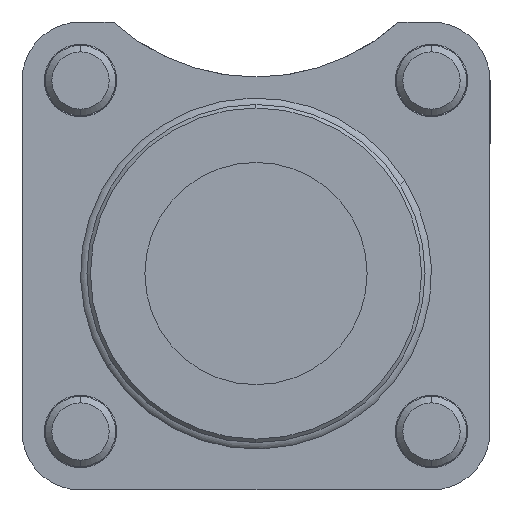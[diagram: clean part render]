
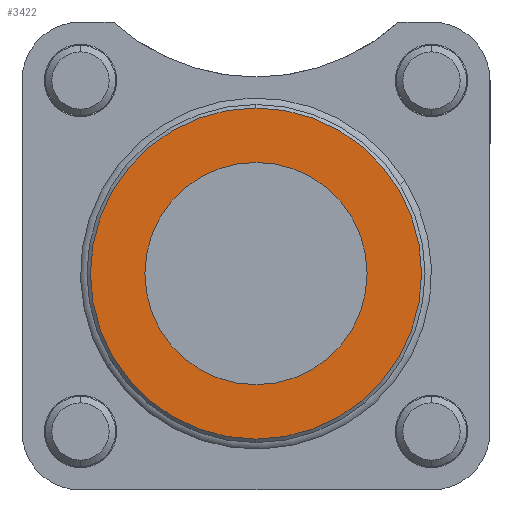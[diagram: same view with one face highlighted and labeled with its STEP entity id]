
A CAD part, front view. The second image highlights one B-rep face of the part: STEP entity #3422.
In plain terms, the highlighted planar face has unit normal (0, -1, 0).
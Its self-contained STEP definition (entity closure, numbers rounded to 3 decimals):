
#122 = FACE_OUTER_BOUND ( 'NONE', #3342, .T. ) ;
#129 = FACE_BOUND ( 'NONE', #3522, .T. ) ;
#254 = CIRCLE ( 'NONE', #6284, 14.15 ) ;
#349 = CIRCLE ( 'NONE', #6397, 9.5 ) ;
#566 = CIRCLE ( 'NONE', #6456, 14.15 ) ;
#568 = CIRCLE ( 'NONE', #6457, 9.5 ) ;
#1328 = CARTESIAN_POINT ( 'NONE',  ( 20., 0., -21.5 ) ) ;
#1335 = DIRECTION ( 'NONE',  ( 0., -1., 0. ) ) ;
#1336 = DIRECTION ( 'NONE',  ( 0., 0., -1. ) ) ;
#1744 = CARTESIAN_POINT ( 'NONE',  ( 20., 0., -21.5 ) ) ;
#1747 = CARTESIAN_POINT ( 'NONE',  ( 20., 0., -21.5 ) ) ;
#1751 = DIRECTION ( 'NONE',  ( 0., -1., 0. ) ) ;
#1752 = DIRECTION ( 'NONE',  ( 0., 0., -1. ) ) ;
#1754 = DIRECTION ( 'NONE',  ( 0., -1., 0. ) ) ;
#1755 = DIRECTION ( 'NONE',  ( 0., 0., -1. ) ) ;
#3342 = EDGE_LOOP ( 'NONE', ( #3710, #3711 ) ) ;
#3422 = ADVANCED_FACE ( 'NONE', ( #122, #129 ), #4936, .T. ) ;
#3522 = EDGE_LOOP ( 'NONE', ( #3712, #3713 ) ) ;
#3710 = ORIENTED_EDGE ( 'NONE', *, *, #5989, .T. ) ;
#3711 = ORIENTED_EDGE ( 'NONE', *, *, #5776, .T. ) ;
#3712 = ORIENTED_EDGE ( 'NONE', *, *, #5990, .F. ) ;
#3713 = ORIENTED_EDGE ( 'NONE', *, *, #5842, .F. ) ;
#4403 = VERTEX_POINT ( 'NONE', #5182 ) ;
#4426 = VERTEX_POINT ( 'NONE', #5205 ) ;
#4467 = VERTEX_POINT ( 'NONE', #5246 ) ;
#4521 = VERTEX_POINT ( 'NONE', #5300 ) ;
#4935 = CARTESIAN_POINT ( 'NONE',  ( 0., 0., -40. ) ) ;
#4936 = PLANE ( 'NONE',  #6312 ) ;
#4938 = DIRECTION ( 'NONE',  ( 0., -1., 0. ) ) ;
#4939 = DIRECTION ( 'NONE',  ( 0., 0., -1. ) ) ;
#5182 = CARTESIAN_POINT ( 'NONE',  ( 20., 0., -35.65 ) ) ;
#5205 = CARTESIAN_POINT ( 'NONE',  ( 20., 0., -12. ) ) ;
#5246 = CARTESIAN_POINT ( 'NONE',  ( 20., 0., -7.35 ) ) ;
#5300 = CARTESIAN_POINT ( 'NONE',  ( 20., 0., -31. ) ) ;
#5448 = CARTESIAN_POINT ( 'NONE',  ( 20., 0., -21.5 ) ) ;
#5451 = DIRECTION ( 'NONE',  ( 0., -1., 0. ) ) ;
#5452 = DIRECTION ( 'NONE',  ( 0., 0., -1. ) ) ;
#5776 = EDGE_CURVE ( 'NONE', #4403, #4467, #254, .T. ) ;
#5842 = EDGE_CURVE ( 'NONE', #4426, #4521, #349, .T. ) ;
#5989 = EDGE_CURVE ( 'NONE', #4467, #4403, #566, .T. ) ;
#5990 = EDGE_CURVE ( 'NONE', #4521, #4426, #568, .T. ) ;
#6284 = AXIS2_PLACEMENT_3D ( 'NONE', #5448, #5451, #5452 ) ;
#6312 = AXIS2_PLACEMENT_3D ( 'NONE', #4935, #4938, #4939 ) ;
#6397 = AXIS2_PLACEMENT_3D ( 'NONE', #1328, #1335, #1336 ) ;
#6456 = AXIS2_PLACEMENT_3D ( 'NONE', #1744, #1751, #1752 ) ;
#6457 = AXIS2_PLACEMENT_3D ( 'NONE', #1747, #1754, #1755 ) ;
